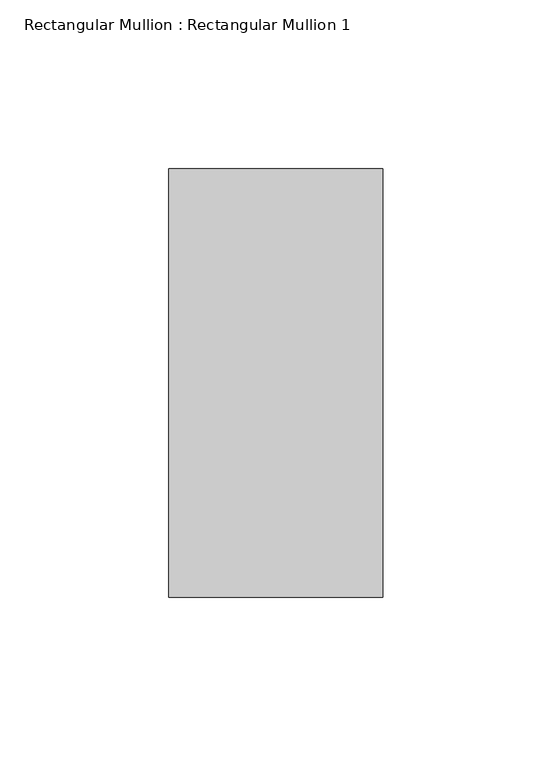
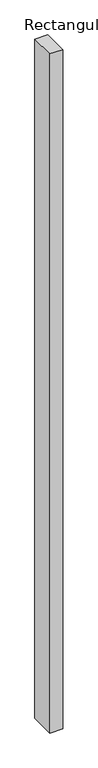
"""IFC4 building model written with IfcOpenShell, lengths in millimetres: member geometry, Rectangular Mullion : Rectangular Mullion 1."""

import ifcopenshell
import ifcopenshell.guid

model = None  # the IFC model being written
_history = None  # IfcOwnerHistory: only IFC2X3 demands one
_inside = {}  # id of a spatial element -> (the spatial element, [elements in it])
_under = {}  # id of a project, library or spatial element -> (it, [spatial elements below it])
_declared = {}  # id of a project -> (the project, [libraries it declares])
_typed = {}  # id of a type object -> (the type object, [elements of that type])
_made_of = {}  # id of a material, layer set ... -> (it, [elements and type objects made of it])


def new_model(schema):
    """Start an empty IFC model of exactly this schema.

    Asked for "IFC4X3", IfcOpenShell would pick the latest addendum, in which some entities
    have other attributes; the version numbers below select the first issue.
    IFC2X3 requires an IfcOwnerHistory on every rooted entity: one is made here for all.
    """
    global model, _history
    if schema == "IFC4X3":
        model = ifcopenshell.file(schema_version=(4, 3, 0, 0))
    else:
        model = ifcopenshell.file(schema=schema)
    _inside.clear()
    _under.clear()
    _declared.clear()
    _typed.clear()
    _made_of.clear()
    _history = None
    if model.schema == "IFC2X3":
        org = make("IfcOrganization", Name="unknown")
        user = make(
            "IfcPersonAndOrganization",
            ThePerson=make("IfcPerson", FamilyName="unknown"),
            TheOrganization=org,
        )
        app = make(
            "IfcApplication",
            ApplicationDeveloper=org,
            Version="unknown",
            ApplicationFullName="unknown",
            ApplicationIdentifier="unknown",
        )
        _history = make(
            "IfcOwnerHistory",
            OwningUser=user,
            OwningApplication=app,
            ChangeAction="ADDED",
            CreationDate=0,
        )
    return model


def make(cls, **values):
    """One entity of the class cls with the attributes given. An attribute that is None is left unset."""
    return model.create_entity(
        cls, **{name: value for name, value in values.items() if value is not None}
    )


def rooted(cls, **values):
    """An entity with a GlobalId (a new one), such as an element, a storey or a relation."""
    return make(cls, GlobalId=ifcopenshell.guid.new(), OwnerHistory=_history, **values)


def si_unit(unit_type, name, prefix=None):
    """IfcSIUnit, for example si_unit("LENGTHUNIT", "METRE", prefix="MILLI")."""
    return make("IfcSIUnit", UnitType=unit_type, Prefix=prefix, Name=name)


def assignment(units):
    """IfcUnitAssignment: the units of a project."""
    return None if units is None else make("IfcUnitAssignment", Units=units)


def point(xyz):
    """IfcCartesianPoint."""
    return None if xyz is None else make("IfcCartesianPoint", Coordinates=xyz)


def direction(xyz):
    """IfcDirection."""
    return None if xyz is None else make("IfcDirection", DirectionRatios=xyz)


def frame(location, z_axis=None, x_axis=None):
    """IfcAxis2Placement3D, a coordinate frame: its origin and axes. An axis left out is left unset."""
    return make(
        "IfcAxis2Placement3D",
        Location=point(location),
        Axis=direction(z_axis),
        RefDirection=direction(x_axis),
    )


def origin():
    """The frame at (0, 0, 0) with its axes left unset."""
    return frame((0.0, 0.0, 0.0))


def place(relative_to, where):
    """IfcLocalPlacement: puts the frame where relative to a parent placement (None: the world)."""
    return make(
        "IfcLocalPlacement", PlacementRelTo=relative_to, RelativePlacement=where
    )


def context(
    kind, dimensions, precision=None, world=None, true_north=None, identifier=None
):
    """IfcGeometricRepresentationContext, for example the 3D "Model" context."""
    return make(
        "IfcGeometricRepresentationContext",
        ContextIdentifier=identifier,
        ContextType=kind,
        CoordinateSpaceDimension=dimensions,
        Precision=precision,
        WorldCoordinateSystem=world,
        TrueNorth=true_north,
    )


def project(units=None, contexts=None):
    """IfcProject with its units and contexts."""
    return rooted(
        "IfcProject",
        Name="project",
        RepresentationContexts=contexts,
        UnitsInContext=assignment(units),
    )


def spatial(cls, under=None, at=None, **own):
    """A site, building, storey or space (cls), placed at a placement, below another one or the project."""
    s = rooted(cls, ObjectPlacement=at, **own)
    if under is not None:
        _under.setdefault(under.id(), (under, []))[1].append(s)
    return s


def polyline(points):
    """IfcPolyline through the points."""
    return make("IfcPolyline", Points=[point(p) for p in points])


def outline(outer, holes=None, kind="AREA"):
    """IfcArbitraryClosedProfileDef: a profile drawn as a closed curve; with holes, ...WithVoids."""
    if holes is None:
        return make("IfcArbitraryClosedProfileDef", ProfileType=kind, OuterCurve=outer)
    return make(
        "IfcArbitraryProfileDefWithVoids",
        ProfileType=kind,
        OuterCurve=outer,
        InnerCurves=holes,
    )


def extrude(swept, where, along, depth):
    """IfcExtrudedAreaSolid: the profile swept, set in the frame where, extruded along a direction by depth."""
    return make(
        "IfcExtrudedAreaSolid",
        SweptArea=swept,
        Position=where,
        ExtrudedDirection=direction(along),
        Depth=depth,
    )


def shape(context_of_items, identifier, shape_type, items):
    """IfcShapeRepresentation: the items that make up one representation, for example the "Body"."""
    return make(
        "IfcShapeRepresentation",
        ContextOfItems=context_of_items,
        RepresentationIdentifier=identifier,
        RepresentationType=shape_type,
        Items=items,
    )


def source(mapping_origin, context_of_items, identifier, shape_type, items):
    """IfcRepresentationMap: a shape defined once, which mapped items show again and again."""
    return make(
        "IfcRepresentationMap",
        MappingOrigin=mapping_origin,
        MappedRepresentation=shape(context_of_items, identifier, shape_type, items),
    )


def transform(
    local_origin,
    x_axis=None,
    y_axis=None,
    z_axis=None,
    scale=None,
    scale2=None,
    scale3=None,
    uniform=True,
):
    """IfcCartesianTransformationOperator3D, or its non-uniform kind. x_axis, y_axis, z_axis: its Axis1, 2, 3."""
    if uniform:
        return make(
            "IfcCartesianTransformationOperator3D",
            Axis1=direction(x_axis),
            Axis2=direction(y_axis),
            LocalOrigin=point(local_origin),
            Scale=scale,
            Axis3=direction(z_axis),
        )
    return make(
        "IfcCartesianTransformationOperator3DnonUniform",
        Axis1=direction(x_axis),
        Axis2=direction(y_axis),
        LocalOrigin=point(local_origin),
        Scale=scale,
        Axis3=direction(z_axis),
        Scale2=scale2,
        Scale3=scale3,
    )


def mapped(mapping_source, mapping_target):
    """IfcMappedItem: shows the shape of a source again, moved by a transform."""
    return make(
        "IfcMappedItem", MappingSource=mapping_source, MappingTarget=mapping_target
    )


def made_of(thing, what):
    """Note that an element or type object is made of a material, layer set ...; save() writes the relation."""
    if what is not None:
        _made_of.setdefault(what.id(), (what, []))[1].append(thing)
    return thing


def element(
    cls,
    number,
    at=None,
    inside=None,
    cuts=None,
    type_object=None,
    material=None,
    context=None,
    identifier="Body",
    shape_type=None,
    held_by="IfcProductDefinitionShape",
    body=None,
    shapes=None,
    **own,
):
    """One element of the class cls, such as IfcWall. Its Tag is "e" and its number.

    at: its placement. inside: the storey or other place that contains it. cuts: it is an
    opening in that element (IfcRelVoidsElement). A single representation is given by context,
    identifier, shape_type and body (its items); several are given by shapes. held_by: the class
    of the entity that holds the representations. save() writes the other relations.
    """
    e = rooted(cls, Tag="e%d" % number, ObjectPlacement=at, **own)
    if body is not None:
        shapes = [shape(context, identifier, shape_type, body)]
    if shapes is not None:
        e.Representation = make(held_by, Representations=shapes)
    if inside is not None:
        _inside.setdefault(inside.id(), (inside, []))[1].append(e)
    if cuts is not None:
        rooted(
            "IfcRelVoidsElement", RelatingBuildingElement=cuts, RelatedOpeningElement=e
        )
    if type_object is not None:
        _typed.setdefault(type_object.id(), (type_object, []))[1].append(e)
    return made_of(e, material)


def aggregate(whole, parts):
    """IfcRelAggregates: a whole, such as a stair, and the parts it consists of."""
    return rooted("IfcRelAggregates", RelatingObject=whole, RelatedObjects=parts)


def save(model, path):
    """Write the relations noted so far, then the file.

    IfcRelAggregates (storeys below a building ...), IfcRelContainedInSpatialStructure (elements
    in a storey), IfcRelDefinesByType, IfcRelAssociatesMaterial and IfcRelDeclares: one each for
    every whole, place, type object, material and project.
    """
    for whole, parts in _under.values():
        aggregate(whole, parts)
    for where, things in _inside.values():
        rooted(
            "IfcRelContainedInSpatialStructure",
            RelatedElements=things,
            RelatingStructure=where,
        )
    for kind, things in _typed.values():
        rooted("IfcRelDefinesByType", RelatedObjects=things, RelatingType=kind)
    for what, things in _made_of.values():
        rooted("IfcRelAssociatesMaterial", RelatedObjects=things, RelatingMaterial=what)
    for by, libraries in _declared.values():
        rooted("IfcRelDeclares", RelatingContext=by, RelatedDefinitions=libraries)
    model.write(path)


def rectangular_mullion_rectangular_mullion_1_d387a3e2(model_context):
    return source(origin(), model_context, "Body", "SweptSolid", [
        extrude(outline(polyline([(31.75, 63.5), (31.75, -63.5), (-31.75, -63.5), (-31.75, 63.5), (31.75, 63.5)])), frame((0.0, 0.0, -3533.2473635), z_axis=(0.0, 0.0, 1.0), x_axis=(1.0, 0.0, 0.0)), (0.0, 0.0, 1.0), 3533.2473635),
    ])


if __name__ == "__main__":
    model = new_model("IFC4")
    model_context = context("Model", 3, world=origin())
    ifc_project = project(units=[si_unit("LENGTHUNIT", "METRE", prefix="MILLI")], contexts=[model_context])
    site = spatial("IfcSite", under=ifc_project)
    building = spatial("IfcBuilding", under=site)
    placement = place(None, origin())
    rectangular_mullion_rectangular_mullion_1_shape = rectangular_mullion_rectangular_mullion_1_d387a3e2(model_context)
    element("IfcMember", 1, ObjectType="Rectangular Mullion : Rectangular Mullion 1", at=placement, inside=building, context=model_context, shape_type="MappedRepresentation", body=[
        mapped(rectangular_mullion_rectangular_mullion_1_shape, transform((0.0, 0.0, 0.0), x_axis=(1.0, 0.0, 0.0), y_axis=(0.0, 1.0, 0.0), z_axis=(0.0, 0.0, 1.0))),
    ])
    save(model, "model.ifc")
